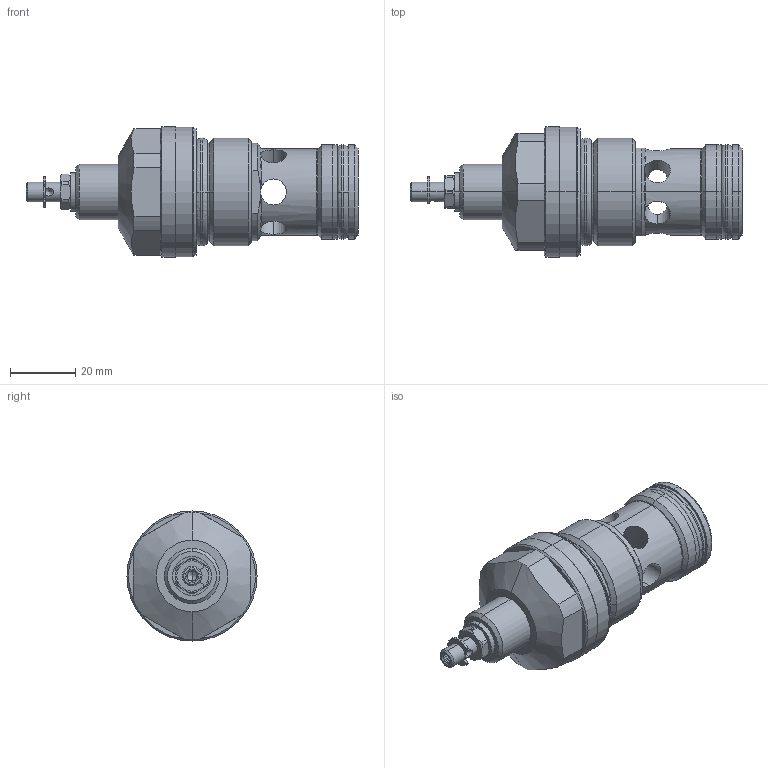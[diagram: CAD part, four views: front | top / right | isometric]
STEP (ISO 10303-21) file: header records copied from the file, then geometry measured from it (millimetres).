
FILE_DESCRIPTION (( 'STEP AP214' ), '1' );
FILE_NAME ('QZSPM33.STEP', '2017-03-24T13:28:53', ( '' ), ( '' ), 'SwSTEP 2.0', 'SolidWorks 2016', '' );
FILE_SCHEMA (( 'AUTOMOTIVE_DESIGN' ));
Length unit declared in the file: millimetre
Products named in the file (1): QZSPM33
Bounding box: 102.1 x 40 x 40 mm (x, y, z)
Volume: 58088.5 mm3; surface area: 16127.7 mm2
Topology: 5 solids, 5 shells, 277 faces, 694 edges, 426 vertices
Faces by surface type: cylinder 102, plane 74, cone 50, torus 35, bspline 16
Entity records: 12239 total; most frequent: CARTESIAN_POINT 2542, DIRECTION 1436, ORIENTED_EDGE 1380, EDGE_CURVE 690, AXIS2_PLACEMENT_3D 612, VERTEX_POINT 426, CIRCLE 350, EDGE_LOOP 302
